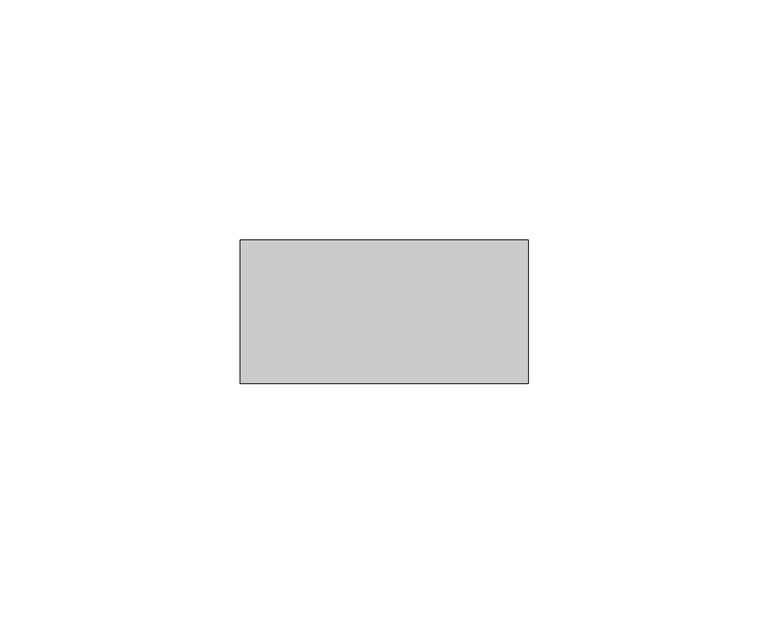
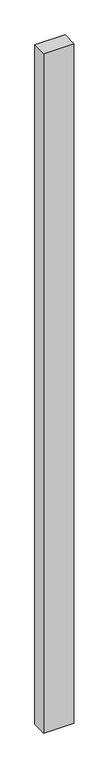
"""IFC4 building model written with IfcOpenShell, lengths in millimetres: member geometry, Прямоугольный импост : Квадрат 30 мм."""

from ifc_helpers import new_model, si_unit, frame, origin, place, context, project, spatial, polyline, outline, extrude, source, transform, mapped, element, save


def member_3ee3da4d(model_context):
    return source(origin(), model_context, "Body", "SweptSolid", [
        extrude(outline(polyline([(30.0, 15.0), (30.0, -15.0), (-30.0, -15.0), (-30.0, 15.0), (30.0, 15.0)])), frame((0.0, 0.0, -1425.0), z_axis=(0.0, 0.0, 1.0), x_axis=(1.0, 0.0, 0.0)), (0.0, 0.0, 1.0), 1425.0),
    ])


if __name__ == "__main__":
    model = new_model("IFC4")
    model_context = context("Model", 3, world=origin())
    ifc_project = project(units=[si_unit("LENGTHUNIT", "METRE", prefix="MILLI")], contexts=[model_context])
    site = spatial("IfcSite", under=ifc_project)
    building = spatial("IfcBuilding", under=site)
    placement = place(None, origin())
    member_shape = member_3ee3da4d(model_context)
    element("IfcMember", 1, ObjectType="Прямоугольный импост : Квадрат 30 мм", at=placement, inside=building, context=model_context, shape_type="MappedRepresentation", body=[
        mapped(member_shape, transform((0.0, 0.0, 0.0), x_axis=(1.0, 0.0, 0.0), y_axis=(0.0, 1.0, 0.0), z_axis=(0.0, 0.0, 1.0))),
    ])
    save(model, "model.ifc")
